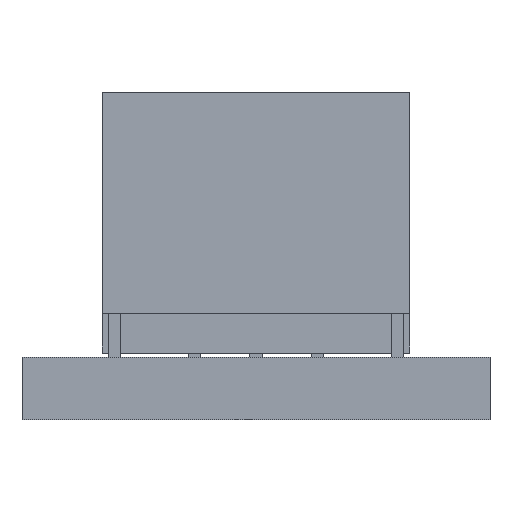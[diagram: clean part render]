
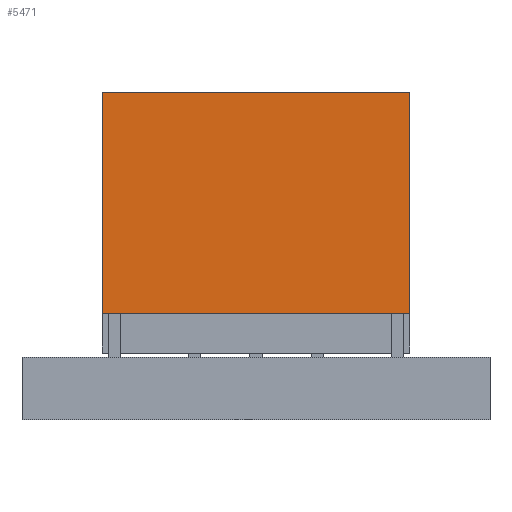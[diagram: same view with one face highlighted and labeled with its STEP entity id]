
A CAD part, front view. The second image highlights one B-rep face of the part: STEP entity #5471.
In plain terms, the highlighted planar face has unit normal (0, -1, 0).
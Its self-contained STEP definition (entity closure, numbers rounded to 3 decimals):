
#22 = VERTEX_POINT ( 'NONE', #17187 ) ;
#824 = LINE ( 'NONE', #11849, #21589 ) ;
#888 = PLANE ( 'NONE',  #8572 ) ;
#1468 = EDGE_LOOP ( 'NONE', ( #28234, #2435, #25390, #12791 ) ) ;
#1855 = EDGE_CURVE ( 'NONE', #25981, #23697, #11098, .T. ) ;
#2130 = VECTOR ( 'NONE', #26351, 1000. ) ;
#2435 = ORIENTED_EDGE ( 'NONE', *, *, #23510, .T. ) ;
#3297 = VECTOR ( 'NONE', #15459, 1000. ) ;
#3850 = DIRECTION ( 'NONE',  ( -1., 0., 0. ) ) ;
#5471 = ADVANCED_FACE ( 'NONE', ( #16083 ), #888, .F. ) ;
#8572 = AXIS2_PLACEMENT_3D ( 'NONE', #12466, #23868, #3850 ) ;
#9020 = LINE ( 'NONE', #17444, #3297 ) ;
#11098 = LINE ( 'NONE', #19773, #2130 ) ;
#11849 = CARTESIAN_POINT ( 'NONE',  ( 6.31, 5.829, 5.336 ) ) ;
#12091 = VECTOR ( 'NONE', #19786, 1000. ) ;
#12466 = CARTESIAN_POINT ( 'NONE',  ( 1.31, 5.829, 5.336 ) ) ;
#12791 = ORIENTED_EDGE ( 'NONE', *, *, #1855, .F. ) ;
#13980 = CARTESIAN_POINT ( 'NONE',  ( 1.31, 5.829, 1.736 ) ) ;
#14229 = CARTESIAN_POINT ( 'NONE',  ( 6.31, 5.829, 5.336 ) ) ;
#15459 = DIRECTION ( 'NONE',  ( 1., 0., 0. ) ) ;
#16083 = FACE_OUTER_BOUND ( 'NONE', #1468, .T. ) ;
#17187 = CARTESIAN_POINT ( 'NONE',  ( 6.31, 5.829, 1.736 ) ) ;
#17444 = CARTESIAN_POINT ( 'NONE',  ( 1.31, 5.829, 1.736 ) ) ;
#17521 = LINE ( 'NONE', #26216, #12091 ) ;
#18275 = DIRECTION ( 'NONE',  ( 0., 0., -1. ) ) ;
#19773 = CARTESIAN_POINT ( 'NONE',  ( 1.31, 5.829, 5.336 ) ) ;
#19786 = DIRECTION ( 'NONE',  ( 0., 0., -1. ) ) ;
#21589 = VECTOR ( 'NONE', #18275, 1000. ) ;
#23386 = VERTEX_POINT ( 'NONE', #13980 ) ;
#23510 = EDGE_CURVE ( 'NONE', #23386, #22, #9020, .T. ) ;
#23697 = VERTEX_POINT ( 'NONE', #14229 ) ;
#23868 = DIRECTION ( 'NONE',  ( 0., 1., 0. ) ) ;
#23948 = CARTESIAN_POINT ( 'NONE',  ( 1.31, 5.829, 5.336 ) ) ;
#25287 = EDGE_CURVE ( 'NONE', #23697, #22, #824, .T. ) ;
#25390 = ORIENTED_EDGE ( 'NONE', *, *, #25287, .F. ) ;
#25981 = VERTEX_POINT ( 'NONE', #23948 ) ;
#26004 = EDGE_CURVE ( 'NONE', #25981, #23386, #17521, .T. ) ;
#26216 = CARTESIAN_POINT ( 'NONE',  ( 1.31, 5.829, 5.336 ) ) ;
#26351 = DIRECTION ( 'NONE',  ( 1., 0., 0. ) ) ;
#28234 = ORIENTED_EDGE ( 'NONE', *, *, #26004, .T. ) ;
